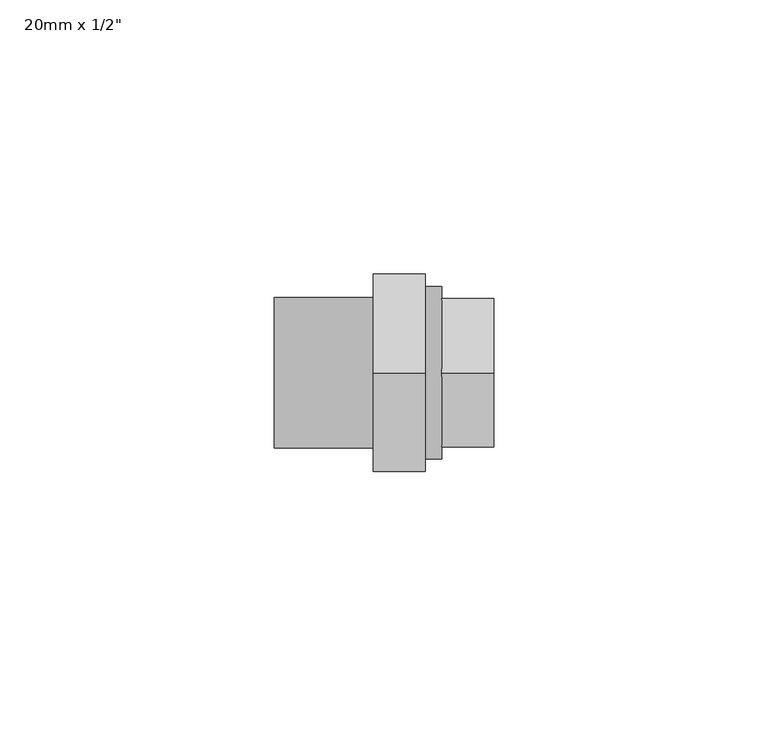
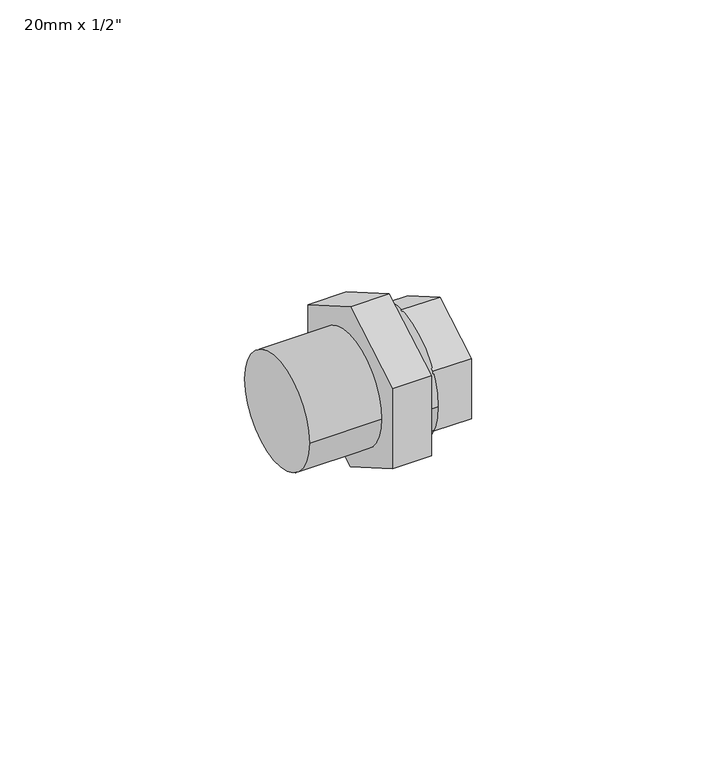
"""IFC4 building model written with IfcOpenShell, lengths in millimetres: pipe fitting geometry."""

from ifc_helpers import new_model, si_unit, point, frame, origin, origin_2d, place, context, project, spatial, circle_curve, trimmed, segment, composite_curve, outline, extrude, source, transform, mapped, element, save
from ifc_brep_helpers import plane_surface, cylinder_surface, advanced_brep


def pipe_fitting_f4d23bf6(model_context):
    return source(origin(), model_context, "Body", "SolidModel", [
        advanced_brep(
        [(31.0, 0.0, 15.5884573), (31.0, -13.5, 7.7942286), (31.0, -13.5, -7.7942286), (31.0, 0.0, -15.5884573), (31.0, 13.5, -7.7942286), (31.0, 13.5, 7.7942286), (21.5, 13.5, 7.7942286), (21.5, 0.0, 15.5884573), (21.5, 13.5, -7.7942286), (21.5, 0.0, -15.5884573), (21.5, -13.5, -7.7942286), (21.5, -13.5, 7.7942286), (21.5, -15.75, 0.0), (21.5, 15.75, 0.0), (18.5, 15.75, 0.0), (18.5, -15.75, 0.0), (9.0, 0.0, 20.7846097), (9.0, 18.0, 10.3923048), (9.0, 18.0, -10.3923048), (9.0, 0.0, -20.7846097), (9.0, -18.0, -10.3923048), (9.0, -18.0, 10.3923048), (18.5, 0.0, 20.7846097), (18.5, -18.0, 10.3923048), (18.5, -18.0, -10.3923048), (18.5, 0.0, -20.7846097), (18.5, 18.0, -10.3923048), (18.5, 18.0, 10.3923048)],
        [
            (0, 1),
            (1, 2),
            (2, 3),
            (3, 4),
            (4, 5),
            (5, 0),
            (5, 6),
            (6, 7),
            (7, 0),
            (4, 8),
            (8, 6),
            (3, 9),
            (9, 8),
            (2, 10),
            (10, 9),
            (1, 11),
            (11, 10),
            (7, 11),
            (12, 13, circle_curve(frame((21.5, 0.0, 0.0), z_axis=(1.0, 0.0, 0.0), x_axis=(0.0, 1.0, 0.0)), 15.75)),
            (13, 12, circle_curve(frame((21.5, 0.0, 0.0), z_axis=(1.0, 0.0, 0.0), x_axis=(0.0, 1.0, 0.0)), 15.75)),
            (13, 14),
            (14, 15, circle_curve(frame((18.5, 0.0, 0.0), z_axis=(1.0, 0.0, 0.0), x_axis=(0.0, 1.0, 0.0)), 15.75)),
            (15, 12),
            (15, 14, circle_curve(frame((18.5, 0.0, 0.0), z_axis=(1.0, 0.0, 0.0), x_axis=(0.0, 1.0, 0.0)), 15.75)),
            (16, 17),
            (17, 18),
            (18, 19),
            (19, 20),
            (20, 21),
            (21, 16),
            (22, 23),
            (23, 24),
            (24, 25),
            (25, 26),
            (26, 27),
            (27, 22),
            (16, 22),
            (27, 17),
            (26, 18),
            (25, 19),
            (24, 20),
            (23, 21),
        ],
        [
            plane_surface(frame((31.0, 0.0, 0.0), z_axis=(1.0, 0.0, 0.0), x_axis=(0.0, 0.0, 1.0))),
            plane_surface(frame((21.5, 0.0, 15.5884573), z_axis=(0.0, 0.499999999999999, 0.8660254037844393), x_axis=(1.0, 0.0, 0.0))),
            plane_surface(frame((21.5, 13.5, 7.7942286), z_axis=(0.0, 1.0, 0.0), x_axis=(1.0, 0.0, 0.0))),
            plane_surface(frame((21.5, 13.5, -7.7942286), z_axis=(0.0, 0.4999999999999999, -0.8660254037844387), x_axis=(1.0, 0.0, 0.0))),
            plane_surface(frame((21.5, 0.0, -15.5884573), z_axis=(0.0, -0.5000000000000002, -0.8660254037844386), x_axis=(1.0, 0.0, 0.0))),
            plane_surface(frame((21.5, -13.5, -7.7942286), z_axis=(0.0, -1.0, 0.0), x_axis=(1.0, 0.0, 0.0))),
            plane_surface(frame((21.5, -13.5, 7.7942286), z_axis=(0.0, -0.5000000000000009, 0.8660254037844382), x_axis=(1.0, 0.0, 0.0))),
            plane_surface(frame((21.5, 0.0, 0.0), z_axis=(1.0, 0.0, 0.0), x_axis=(0.0, 0.0, 1.0))),
            cylinder_surface(frame((18.5, 0.0, 0.0), z_axis=(-1.0, 0.0, 0.0), x_axis=(0.0, 1.0, 0.0)), 15.75),
            plane_surface(frame((9.0, 0.0, 0.0), z_axis=(-1.0, 0.0, 0.0), x_axis=(0.0, 0.0, 1.0))),
            plane_surface(frame((18.5, 0.0, 0.0), z_axis=(1.0, 0.0, 0.0), x_axis=(0.0, 0.0, 1.0))),
            plane_surface(frame((9.0, 0.0, 20.7846097), z_axis=(0.0, 0.4999999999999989, 0.8660254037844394), x_axis=(1.0, 0.0, 0.0))),
            plane_surface(frame((9.0, 18.0, 10.3923048), z_axis=(0.0, 1.0, 0.0), x_axis=(1.0, 0.0, 0.0))),
            plane_surface(frame((9.0, 18.0, -10.3923048), z_axis=(0.0, 0.49999999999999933, -0.866025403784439), x_axis=(1.0, 0.0, 0.0))),
            plane_surface(frame((9.0, 0.0, -20.7846097), z_axis=(0.0, -0.49999999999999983, -0.8660254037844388), x_axis=(1.0, 0.0, 0.0))),
            plane_surface(frame((9.0, -18.0, -10.3923048), z_axis=(0.0, -1.0, 0.0), x_axis=(1.0, 0.0, 0.0))),
            plane_surface(frame((9.0, -18.0, 10.3923048), z_axis=(0.0, -0.5, 0.8660254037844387), x_axis=(1.0, 0.0, 0.0))),
        ],
        [
            (0, [[1, 2, 3, 4, 5, 6]]),
            (1, [[-6, 7, 8, 9]]),
            (2, [[-5, 10, 11, -7]]),
            (3, [[-4, 12, 13, -10]]),
            (4, [[-3, 14, 15, -12]]),
            (5, [[-2, 16, 17, -14]]),
            (6, [[-1, -9, 18, -16]]),
            (7, [[19, 20], [-8, -11, -13, -15, -17, -18]]),
            (8, [[-20, 21, 22, 23]]),
            (8, [[-19, -23, 24, -21]]),
            (9, [[25, 26, 27, 28, 29, 30]]),
            (10, [[31, 32, 33, 34, 35, 36], [-22, -24]]),
            (11, [[-25, 37, -36, 38]]),
            (12, [[-26, -38, -35, 39]]),
            (13, [[-27, -39, -34, 40]]),
            (14, [[-28, -40, -33, 41]]),
            (15, [[-29, -41, -32, 42]]),
            (16, [[-30, -42, -31, -37]]),
        ],
    ),
        extrude(outline(composite_curve([segment(trimmed(circle_curve(origin_2d(), 13.75), [point((-13.75, 0.0))], [point((13.75, 0.0))], False, "CARTESIAN"), True, "CONTINUOUS"), segment(trimmed(circle_curve(origin_2d(), 13.75), [point((13.75, 0.0))], [point((-13.75, 0.0))], False, "CARTESIAN"), True, "CONTINUOUS")], self_intersect=False)), frame((-9.0, 0.0, 0.0), z_axis=(1.0, 0.0, 0.0), x_axis=(0.0, 1.0, 0.0)), (0.0, 0.0, 1.0), 18.0),
    ])


if __name__ == "__main__":
    model = new_model("IFC4")
    model_context = context("Model", 3, world=origin())
    ifc_project = project(units=[si_unit("LENGTHUNIT", "METRE", prefix="MILLI")], contexts=[model_context])
    site = spatial("IfcSite", under=ifc_project)
    building = spatial("IfcBuilding", under=site)
    placement = place(None, origin())
    pipe_fitting_shape = pipe_fitting_f4d23bf6(model_context)
    element("IfcPipeFitting", 1, ObjectType="PipeFitting_HTA_CPVC_3PieceUnions_(CPVC-Brass) : 20mm x 1/2\"", at=placement, inside=building, context=model_context, shape_type="MappedRepresentation", body=[
        mapped(pipe_fitting_shape, transform((0.0, 0.0, 0.0), x_axis=(1.0, 0.0, 0.0), y_axis=(0.0, 1.0, 0.0), z_axis=(0.0, 0.0, 1.0))),
    ])
    save(model, "model.ifc")
